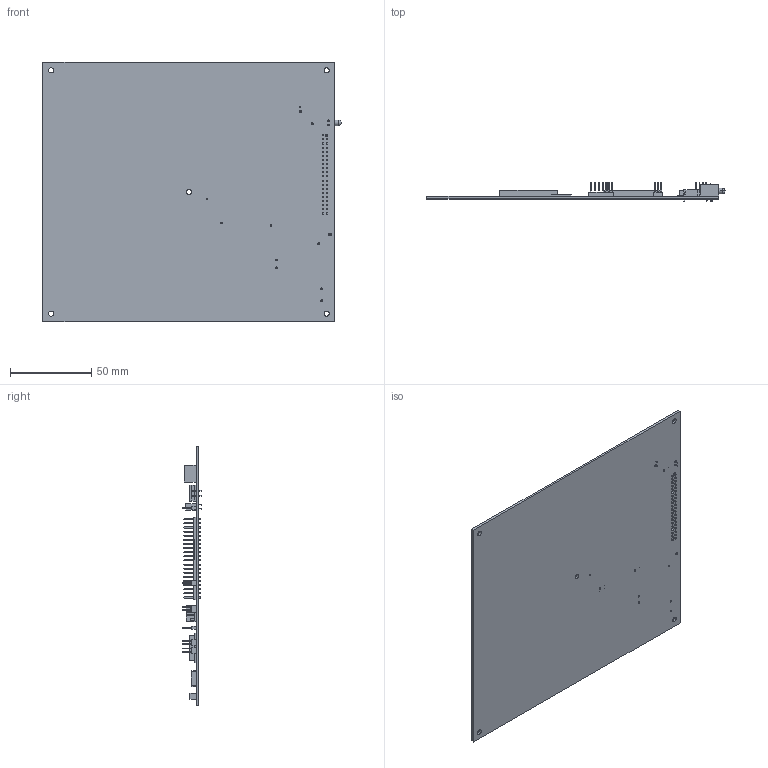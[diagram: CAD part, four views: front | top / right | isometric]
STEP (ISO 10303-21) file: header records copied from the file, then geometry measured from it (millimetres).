
FILE_DESCRIPTION (( 'STEP AP203' ), '1' );
FILE_NAME ('Assy PCB SP6-315 416025710-3 240616.STEP', '2024-06-19T18:47:39', ( '' ), ( '' ), 'SwSTEP 2.0', 'SolidWorks 2023', '' );
FILE_SCHEMA (( 'CONFIG_CONTROL_DESIGN' ));
Length unit declared in the file: inch
Products named in the file (14): 210018004-3 PH Conn 2.0-F-04p; 210021403-3 Header_2.0_3X1; 215090251-3 LVDS 51 pin; 023216806-3 Module ESP32-S3-WROOM-1-N16R8; Assy PCB SP6-315 416025710-3 240616; PCB SP6-315 240616; 210030040-3 Hdr Vert 20P 2 Rows; 212040910-3 Conn USB Type C; 210020006-3 Conn Hdr Str 6P 2.54mm; 120014015-3 LED RA 3.4mm Green; 210402530-5 Conn DC Pwr Jack 2.5mm; 210021402-3 Header_2.0_2x1; 210034106-3 Header_2.0_2x3; 210082402-3 Power 2P RA
Assembly tree (17 placements, depth 2):
  Assy PCB SP6-315 416025710-3 240616
    PCB SP6-315 240616
    120014015-3 LED RA 3.4mm Green
    210018004-3 PH Conn 2.0-F-04p
    210021402-3 Header_2.0_2x1  x3
    210030040-3 Hdr Vert 20P 2 Rows
    212040910-3 Conn USB Type C
    023216806-3 Module ESP32-S3-WROOM-1-N16R8
    210020006-3 Conn Hdr Str 6P 2.54mm
    210021403-3 Header_2.0_3X1  x2
    210034106-3 Header_2.0_2x3
    210082402-3 Power 2P RA
    210402530-5 Conn DC Pwr Jack 2.5mm
    215090251-3 LVDS 51 pin  x2
Bounding box: 183.88 x 12.1 x 160 mm (x, y, z)
Volume: 49865.6 mm3; surface area: 66098.9 mm2
Topology: 17 solids, 17 shells, 1263 faces, 2884 edges, 1807 vertices
Faces by surface type: plane 1131, cylinder 130, sphere 2
Entity records: 33828 total; most frequent: CARTESIAN_POINT 5549, ORIENTED_EDGE 5364, DIRECTION 5308, EDGE_CURVE 2682, LINE 2444, VECTOR 2444, VERTEX_POINT 1673, AXIS2_PLACEMENT_3D 1432
